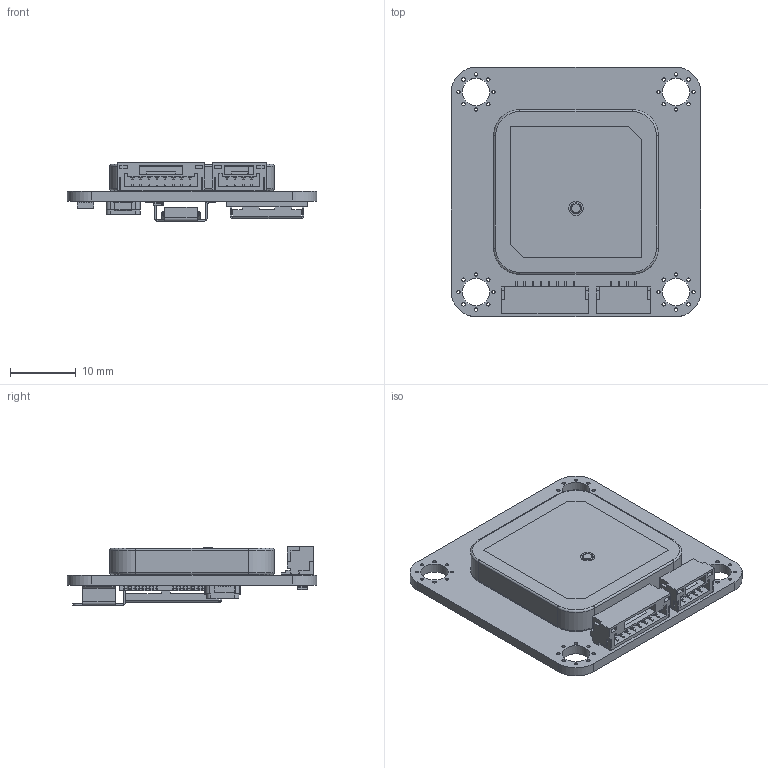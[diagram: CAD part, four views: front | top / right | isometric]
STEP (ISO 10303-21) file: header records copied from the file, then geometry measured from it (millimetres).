
FILE_DESCRIPTION(/* description */ ('KiCad electronic assembly'),/* implementation_level */ '2;1');
FILE_NAME(/* name */ 'Aerium_Datum_public.step',/* time_stamp */ '2025-11-30T12:53:28+02:00',/* author */ (''),/* organization */ (''),/* preprocessor_version */ 'ST-DEVELOPER v20.1',/* originating_system */ 'Autodesk Translation Framework v14.21.0.0',/* authorisation */ '');
FILE_SCHEMA (('AUTOMOTIVE_DESIGN { 1 0 10303 214 3 1 1 }'));
Products named in the file (13): 2025-11-30-10-52-12-843; 2025-11-30-10-52-12-844; 2025-11-30-10-52-12-845; 2025-11-30-10-52-12-846; 2025-11-30-10-52-12-847; 2025-11-30-10-52-12-848; 2025-11-30-10-52-12-849; 2025-11-30-10-52-12-850; 2025-11-30-10-52-12-851; 2025-11-30-10-52-12-852; 2025-11-30-10-52-12-853; 2025-11-30-10-52-12-854; 2025-11-30-10-52-12-855
Assembly tree (12 placements, depth 3):
  2025-11-30-10-52-12-843
    2025-11-30-10-52-12-844
    2025-11-30-10-52-12-845
    2025-11-30-10-52-12-846
    2025-11-30-10-52-12-847
    2025-11-30-10-52-12-848
      2025-11-30-10-52-12-849
      2025-11-30-10-52-12-850
    2025-11-30-10-52-12-851
    2025-11-30-10-52-12-852
      2025-11-30-10-52-12-853
    2025-11-30-10-52-12-854
    2025-11-30-10-52-12-855
Bounding box: 38 x 38 x 8.93 mm (x, y, z)
Volume: 5023.7 mm3; surface area: 7667.9 mm2
Topology: 78 solids, 78 shells, 2562 faces, 6927 edges, 4541 vertices
Faces by surface type: plane 1568, bspline 706, cylinder 250, sphere 24, torus 12, cone 2
Full cylindrical faces by diameter (mm): 0.263 x2, 0.5 x32, 0.9 x2, 0.95 x1, 1.2 x1, 1.458 x2, 1.7 x6, 2.2 x2, 3 x2, 4.2 x4
Entity records: 88904 total; most frequent: CARTESIAN_POINT 27054, ORIENTED_EDGE 13790, DIRECTION 9804, EDGE_CURVE 6895, LINE 4942, VECTOR 4942, VERTEX_POINT 4541, EDGE_LOOP 2732
